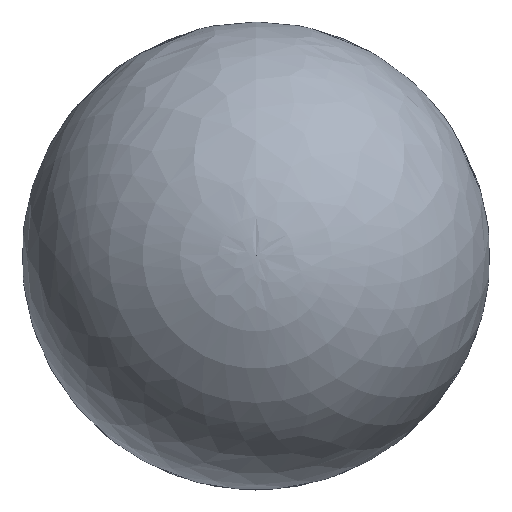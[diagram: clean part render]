
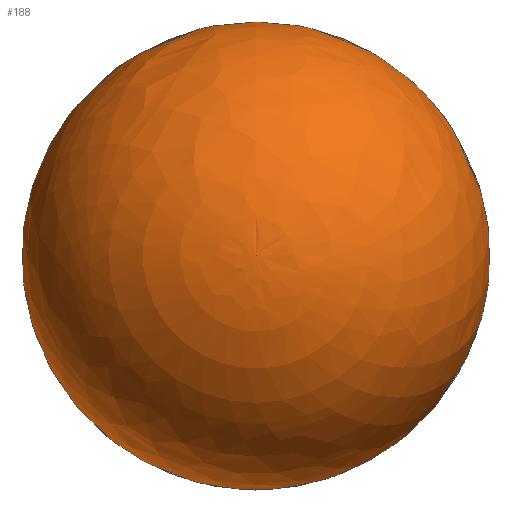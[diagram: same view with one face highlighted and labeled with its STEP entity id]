
A CAD part, top view. The second image highlights one B-rep face of the part: STEP entity #188.
In plain terms, the highlighted free-form (B-spline) face has degree [2, 2] with [5, 9] control points.
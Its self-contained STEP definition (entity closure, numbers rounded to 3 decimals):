
#18=(
BOUNDED_SURFACE()
B_SPLINE_SURFACE(2,2,((#347,#348,#349,#350,#351,#352,#353,#354,#355),(#356,
#357,#358,#359,#360,#361,#362,#363,#364),(#365,#366,#367,#368,#369,#370,
#371,#372,#373),(#374,#375,#376,#377,#378,#379,#380,#381,#382),(#383,#384,
#385,#386,#387,#388,#389,#390,#391)),.UNSPECIFIED.,.F.,.T.,.F.)
B_SPLINE_SURFACE_WITH_KNOTS((3,2,3),(3,2,2,2,3),(-1.156,0.208,
1.572),(-3.142,-1.571,0.,1.571,
3.142),.UNSPECIFIED.)
GEOMETRIC_REPRESENTATION_ITEM()
RATIONAL_B_SPLINE_SURFACE(((1.,0.707,1.,0.707,1.,
0.707,1.,0.707,1.),(0.776,0.549,
0.776,0.549,0.776,0.549,
0.776,0.549,0.776),(1.,0.707,
1.,0.707,1.,0.707,1.,0.707,1.),(0.776,
0.549,0.776,0.549,0.776,
0.549,0.776,0.549,0.776),
(1.,0.707,1.,0.707,1.,0.707,1.,0.707,
1.)))
REPRESENTATION_ITEM('')
SURFACE()
);
#49=FACE_OUTER_BOUND('',#64,.T.);
#64=EDGE_LOOP('',(#150,#151,#152));
#82=CIRCLE('',#235,40.391);
#84=CIRCLE('',#237,100.);
#100=VERTEX_POINT('',#344);
#101=VERTEX_POINT('',#392);
#118=EDGE_CURVE('',#100,#100,#82,.T.);
#120=EDGE_CURVE('',#101,#100,#84,.T.);
#150=ORIENTED_EDGE('',*,*,#120,.T.);
#151=ORIENTED_EDGE('',*,*,#118,.T.);
#152=ORIENTED_EDGE('',*,*,#120,.F.);
#188=ADVANCED_FACE('',(#49),#18,.F.);
#235=AXIS2_PLACEMENT_3D('',#345,#281,#282);
#237=AXIS2_PLACEMENT_3D('',#393,#285,#286);
#281=DIRECTION('center_axis',(0.,0.,
1.));
#282=DIRECTION('ref_axis',(1.,0.,0.));
#285=DIRECTION('center_axis',(-1.,0.,0.));
#286=DIRECTION('ref_axis',(0.,1.,0.));
#344=CARTESIAN_POINT('',(0.,40.391,14.004));
#345=CARTESIAN_POINT('Origin',(0.,0.,
14.004));
#347=CARTESIAN_POINT('Ctrl Pts',(0.,40.391,
14.004));
#348=CARTESIAN_POINT('Ctrl Pts',(-40.391,40.391,14.004));
#349=CARTESIAN_POINT('Ctrl Pts',(-40.391,0.,
14.004));
#350=CARTESIAN_POINT('Ctrl Pts',(-40.391,-40.391,14.004));
#351=CARTESIAN_POINT('Ctrl Pts',(0.,-40.391,
14.004));
#352=CARTESIAN_POINT('Ctrl Pts',(40.391,-40.391,14.004));
#353=CARTESIAN_POINT('Ctrl Pts',(40.391,0.,
14.004));
#354=CARTESIAN_POINT('Ctrl Pts',(40.391,40.391,14.004));
#355=CARTESIAN_POINT('Ctrl Pts',(0.,40.391,
14.004));
#356=CARTESIAN_POINT('Ctrl Pts',(0.,114.715,
46.713));
#357=CARTESIAN_POINT('Ctrl Pts',(-114.715,114.715,46.713));
#358=CARTESIAN_POINT('Ctrl Pts',(-114.715,0.,
46.713));
#359=CARTESIAN_POINT('Ctrl Pts',(-114.715,-114.715,46.713));
#360=CARTESIAN_POINT('Ctrl Pts',(0.,-114.715,
46.713));
#361=CARTESIAN_POINT('Ctrl Pts',(114.715,-114.715,46.713));
#362=CARTESIAN_POINT('Ctrl Pts',(114.715,0.,
46.713));
#363=CARTESIAN_POINT('Ctrl Pts',(114.715,114.715,46.713));
#364=CARTESIAN_POINT('Ctrl Pts',(0.,114.715,
46.713));
#365=CARTESIAN_POINT('Ctrl Pts',(0.,97.959,
126.168));
#366=CARTESIAN_POINT('Ctrl Pts',(-97.959,97.959,126.168));
#367=CARTESIAN_POINT('Ctrl Pts',(-97.959,0.,
126.168));
#368=CARTESIAN_POINT('Ctrl Pts',(-97.959,-97.959,126.168));
#369=CARTESIAN_POINT('Ctrl Pts',(0.,-97.959,
126.168));
#370=CARTESIAN_POINT('Ctrl Pts',(97.959,-97.959,126.168));
#371=CARTESIAN_POINT('Ctrl Pts',(97.959,0.,
126.168));
#372=CARTESIAN_POINT('Ctrl Pts',(97.959,97.959,126.168));
#373=CARTESIAN_POINT('Ctrl Pts',(0.,97.959,
126.168));
#374=CARTESIAN_POINT('Ctrl Pts',(0.,81.202,
205.622));
#375=CARTESIAN_POINT('Ctrl Pts',(-81.202,81.202,205.622));
#376=CARTESIAN_POINT('Ctrl Pts',(-81.202,0.,
205.622));
#377=CARTESIAN_POINT('Ctrl Pts',(-81.202,-81.202,205.622));
#378=CARTESIAN_POINT('Ctrl Pts',(0.,-81.202,
205.622));
#379=CARTESIAN_POINT('Ctrl Pts',(81.202,-81.202,205.622));
#380=CARTESIAN_POINT('Ctrl Pts',(81.202,0.,
205.622));
#381=CARTESIAN_POINT('Ctrl Pts',(81.202,81.202,205.622));
#382=CARTESIAN_POINT('Ctrl Pts',(0.,81.202,
205.622));
#383=CARTESIAN_POINT('Ctrl Pts',(0.,0.,
205.532));
#384=CARTESIAN_POINT('Ctrl Pts',(0.,0.,
205.532));
#385=CARTESIAN_POINT('Ctrl Pts',(0.,0.,
205.532));
#386=CARTESIAN_POINT('Ctrl Pts',(0.,0.,
205.532));
#387=CARTESIAN_POINT('Ctrl Pts',(0.,0.,
205.532));
#388=CARTESIAN_POINT('Ctrl Pts',(0.,0.,
205.532));
#389=CARTESIAN_POINT('Ctrl Pts',(0.,0.,
205.532));
#390=CARTESIAN_POINT('Ctrl Pts',(0.,0.,
205.532));
#391=CARTESIAN_POINT('Ctrl Pts',(0.,0.,
205.532));
#392=CARTESIAN_POINT('',(0.,0.,205.532));
#393=CARTESIAN_POINT('Origin',(0.,0.111,105.532));
